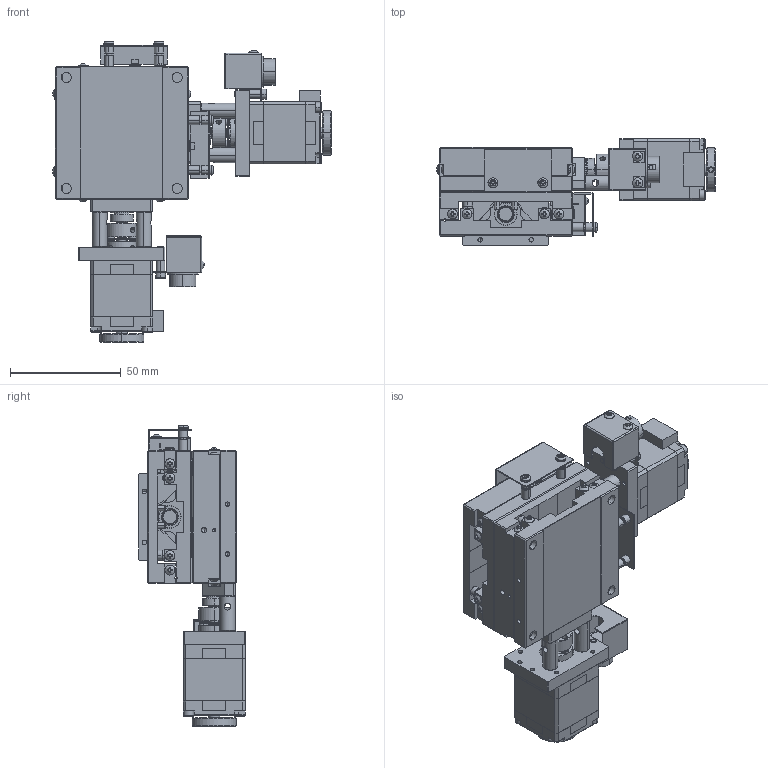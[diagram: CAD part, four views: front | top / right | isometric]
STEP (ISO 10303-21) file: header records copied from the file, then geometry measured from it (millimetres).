
FILE_DESCRIPTION (( 'STEP AP214' ), '1' );
FILE_NAME ('TYS6015E-L1-M28L.STEP', '2025-01-03T09:18:06', ( '' ), ( '' ), 'SwSTEP 2.0', 'SolidWorks 2020', '' );
FILE_SCHEMA (( 'AUTOMOTIVE_DESIGN' ));
Length unit declared in the file: millimetre
Products named in the file (2): TYS6015E-L1-M28L; TXS6015E-L1-M28L
Assembly tree (2 placements, depth 2):
  TYS6015E-L1-M28L
    TXS6015E-L1-M28L  x2
Bounding box: 125.63 x 48 x 135.7 mm (x, y, z)
Volume: 176100.5 mm3; surface area: 98104.8 mm2
Topology: 172 solids, 172 shells, 3672 faces, 9392 edges, 6038 vertices
Faces by surface type: plane 1814, cylinder 1166, cone 364, bspline 168, sphere 112, torus 48
Entity records: 60458 total; most frequent: CARTESIAN_POINT 16424, ORIENTED_EDGE 8976, DIRECTION 8729, EDGE_CURVE 4488, AXIS2_PLACEMENT_3D 3164, VERTEX_POINT 2935, LINE 2401, VECTOR 2401
